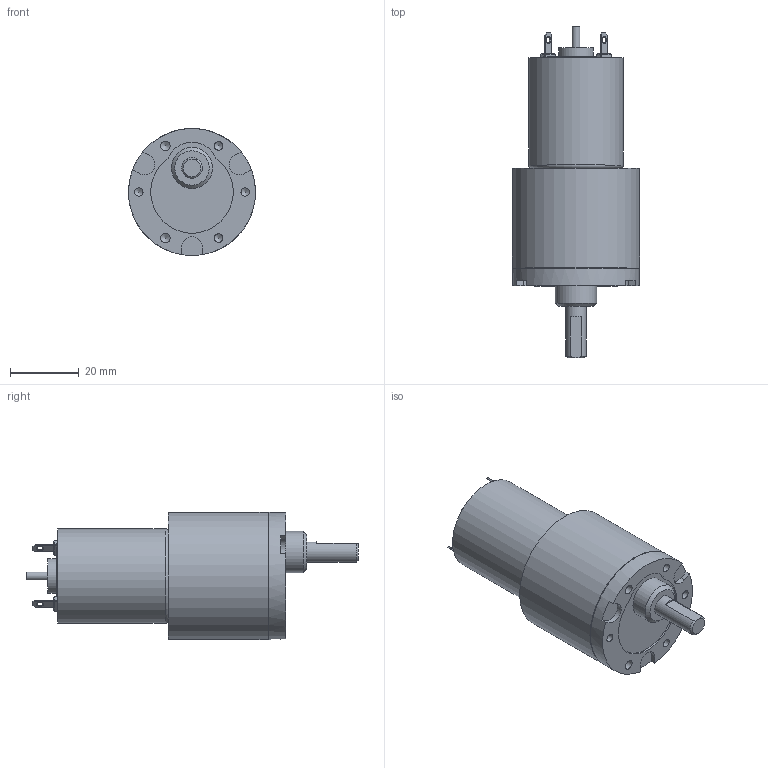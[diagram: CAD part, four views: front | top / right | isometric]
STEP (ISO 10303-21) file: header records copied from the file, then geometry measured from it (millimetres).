
FILE_DESCRIPTION((''),'2;1');
FILE_NAME('C:\Documents and Settings\SSEGAWA\デスクトップ\TP-2732D-KS-6.STP','2013-07-01T13:34:03',('SSEGAWA'),(''),'Autodesk Inventor 2010','Autodesk Inventor 2010','');
FILE_SCHEMA(('CONFIG_CONTROL_DESIGN'));
Length unit declared in the file: millimetre
Products named in the file (3): tp_2732def_ks_6; ks_6; tp_2732d,e,f
Assembly tree (2 placements, depth 2):
  tp_2732def_ks_6
    ks_6
    tp_2732d,e,f
Bounding box: 37 x 96.7 x 37 mm (x, y, z)
Volume: 57142 mm3; surface area: 11709.5 mm2
Topology: 3 solids, 3 shells, 162 faces, 364 edges, 233 vertices
Faces by surface type: plane 95, cylinder 36, bspline 25, torus 4, cone 2
Full cylindrical faces by diameter (mm): 2 x2, 2.305 x2, 2.5 x5, 6 x1, 9 x2, 10 x2, 12 x1, 19 x1, 26.7 x1, 27.7 x1, 36.6 x1, 37 x2
Entity records: 4421 total; most frequent: CARTESIAN_POINT 1013, DIRECTION 695, ORIENTED_EDGE 604, EDGE_CURVE 302, AXIS2_PLACEMENT_3D 253, EDGE_LOOP 233, VERTEX_POINT 213, VECTOR 189
